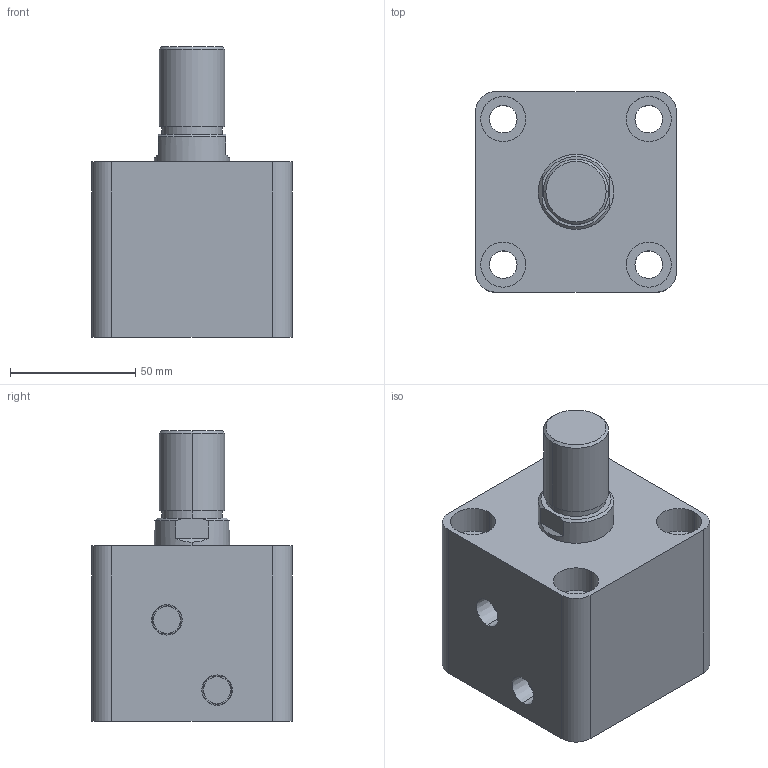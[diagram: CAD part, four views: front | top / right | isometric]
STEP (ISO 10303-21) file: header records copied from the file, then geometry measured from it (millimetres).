
FILE_DESCRIPTION (( 'STEP AP203' ), '1' );
FILE_NAME ('HTB-SD50-10W.STEP', '2019-10-07T07:06:10', ( '微软用户' ), ( '微软中国' ), 'SwSTEP 2.0', 'SolidWorks 2012', '' );
FILE_SCHEMA (( 'CONFIG_CONTROL_DESIGN' ));
Length unit declared in the file: millimetre
Products named in the file (3): HTB-SD50-10W活塞杆; HTB-SD50-10W; HTB-SD50-10掛极
Assembly tree (2 placements, depth 2):
  HTB-SD50-10W
    HTB-SD50-10掛极
    HTB-SD50-10W活塞杆
Bounding box: 80 x 80 x 116 mm (x, y, z)
Volume: 414353 mm3; surface area: 70471.5 mm2
Topology: 2 solids, 2 shells, 87 faces, 190 edges, 124 vertices
Faces by surface type: cylinder 44, plane 29, cone 8, torus 6
Entity records: 2761 total; most frequent: DIRECTION 478, CARTESIAN_POINT 434, ORIENTED_EDGE 380, AXIS2_PLACEMENT_3D 204, EDGE_CURVE 190, VERTEX_POINT 124, CIRCLE 112, EDGE_LOOP 112
